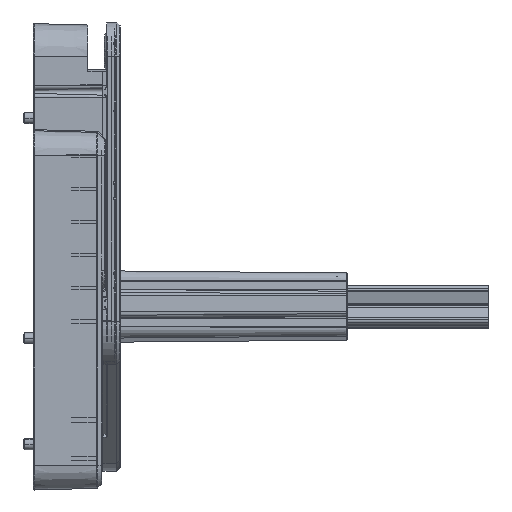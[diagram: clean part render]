
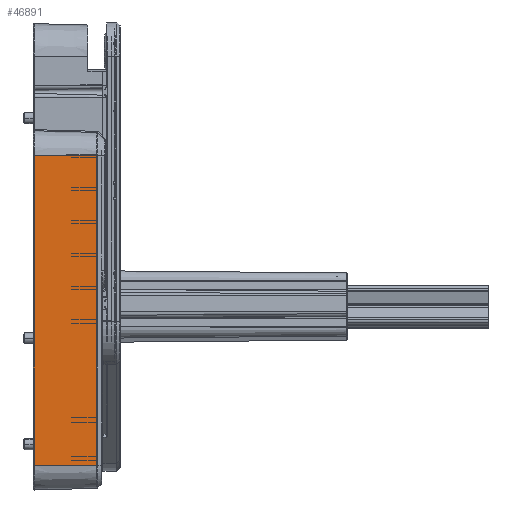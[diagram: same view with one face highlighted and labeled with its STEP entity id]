
A CAD part, front view. The second image highlights one B-rep face of the part: STEP entity #46891.
In plain terms, the highlighted planar face has unit normal (0.026, -1, 0).
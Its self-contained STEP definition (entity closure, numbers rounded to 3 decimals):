
#7800=DIRECTION('',(0.,0.,1.));
#7801=VECTOR('',#7800,140.5);
#7802=CARTESIAN_POINT('',(18.301,-13.005,-199.5));
#7803=LINE('',#7802,#7801);
#7804=DIRECTION('',(-1.,-0.026,0.));
#7805=VECTOR('',#7804,28.503);
#7806=CARTESIAN_POINT('',(18.301,-13.005,-199.5));
#7807=LINE('',#7806,#7805);
#7808=DIRECTION('',(0.,0.,1.));
#7809=VECTOR('',#7808,140.5);
#7810=CARTESIAN_POINT('',(-10.192,-13.751,-199.5));
#7811=LINE('',#7810,#7809);
#7812=DIRECTION('',(1.,0.026,0.));
#7813=VECTOR('',#7812,28.503);
#7814=CARTESIAN_POINT('',(-10.192,-13.751,-59.));
#7815=LINE('',#7814,#7813);
#31212=CARTESIAN_POINT('',(-10.192,-13.751,-59.));
#31214=VERTEX_POINT('',#31212);
#31218=CARTESIAN_POINT('',(-10.192,-13.751,-199.5));
#31219=VERTEX_POINT('',#31218);
#31280=CARTESIAN_POINT('',(18.301,-13.005,-59.));
#31281=VERTEX_POINT('',#31280);
#31286=CARTESIAN_POINT('',(18.301,-13.005,-199.5));
#31287=VERTEX_POINT('',#31286);
#46878=CARTESIAN_POINT('',(18.5,-13.,-59.));
#46879=DIRECTION('',(0.026,-1.,0.));
#46880=DIRECTION('',(0.,0.,-1.));
#46881=AXIS2_PLACEMENT_3D('',#46878,#46879,#46880);
#46882=PLANE('',#46881);
#46884=ORIENTED_EDGE('',*,*,#46883,.F.);
#46885=ORIENTED_EDGE('',*,*,#46866,.T.);
#46886=ORIENTED_EDGE('',*,*,#41944,.T.);
#46888=ORIENTED_EDGE('',*,*,#46887,.T.);
#46889=EDGE_LOOP('',(#46884,#46885,#46886,#46888));
#46890=FACE_OUTER_BOUND('',#46889,.F.);
#41944=EDGE_CURVE('',#31219,#31214,#7811,.T.);
#46866=EDGE_CURVE('',#31287,#31219,#7807,.T.);
#46883=EDGE_CURVE('',#31287,#31281,#7803,.T.);
#46887=EDGE_CURVE('',#31214,#31281,#7815,.T.);
#46891=ADVANCED_FACE('',(#46890),#46882,.T.);
